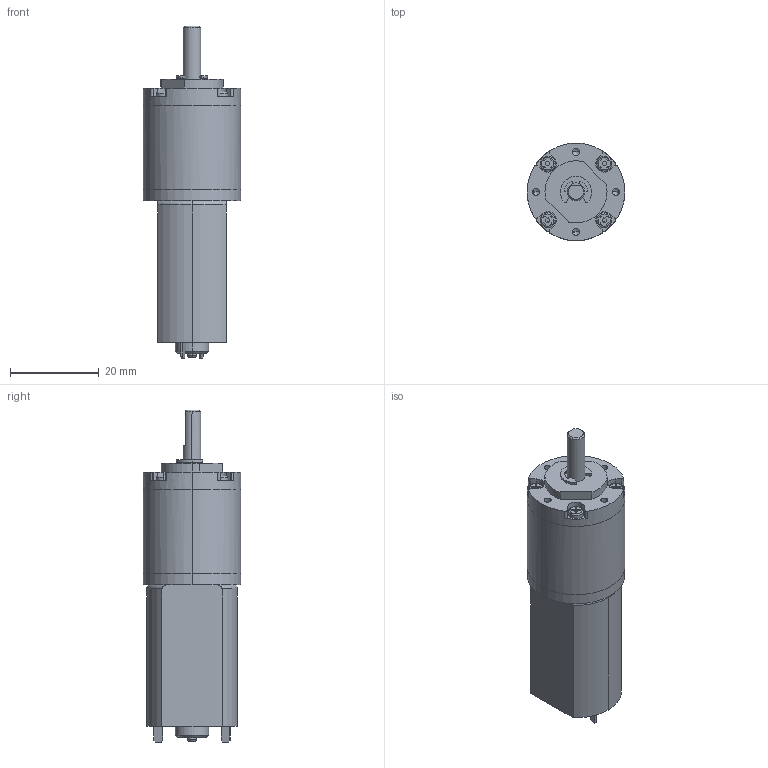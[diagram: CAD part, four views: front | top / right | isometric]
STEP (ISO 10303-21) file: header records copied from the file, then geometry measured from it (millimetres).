
FILE_DESCRIPTION((''),' ');
FILE_NAME('dsmp220_4.stp',' ',('R. Lindner'),('MSW GmbH'),' ','ACIS 14.0',' ');
FILE_SCHEMA(('automotive_design'));
Length unit declared in the file: inch
Products named in the file (4): DSMP220_4
Bounding box: 22 x 22 x 74.85 mm (x, y, z)
Volume: 21099.3 mm3; surface area: 7956.5 mm2
Topology: 4 solids, 4 shells, 357 faces, 955 edges, 610 vertices
Faces by surface type: cylinder 189, plane 125, cone 29, torus 14
Entity records: 14135 total; most frequent: DIRECTION 2080, CARTESIAN_POINT 1954, ORIENTED_EDGE 1862, EDGE_CURVE 931, AXIS2_PLACEMENT_3D 794, VERTEX_POINT 610, LINE 492, VECTOR 492
